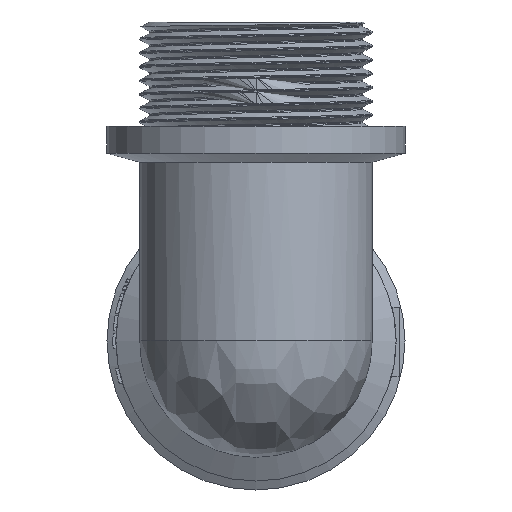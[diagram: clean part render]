
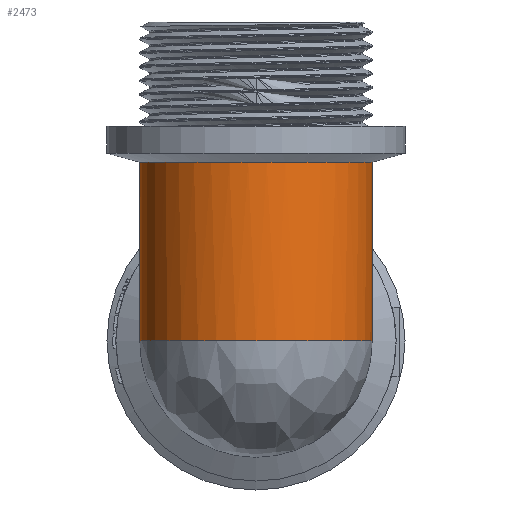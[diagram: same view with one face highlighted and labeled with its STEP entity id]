
A CAD part, front view. The second image highlights one B-rep face of the part: STEP entity #2473.
In plain terms, the highlighted cylindrical face has radius 19.5 mm (diameter 39 mm), a full revolution.
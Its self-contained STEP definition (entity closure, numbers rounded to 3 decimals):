
#44=B_SPLINE_CURVE_WITH_KNOTS('',3,(#3871,#3872,#3873,#3874,#3875,#3876,
#3877,#3878,#3879,#3880,#3881,#3882,#3883,#3884,#3885,#3886,#3887,#3888,
#3889,#3890,#3891,#3892,#3893,#3894,#3895,#3896,#3897,#3898,#3899,#3900,
#3901,#3902,#3903,#3904,#3905),.UNSPECIFIED.,.F.,.F.,(4,2,2,2,2,2,2,2,3,
2,2,2,2,2,2,2,4),(-2.938,-2.571,-2.204,
-1.836,-1.469,-1.102,-0.735,
-0.367,0.,0.367,0.735,1.102,
1.469,1.836,2.204,2.571,2.938),
 .UNSPECIFIED.);
#45=B_SPLINE_CURVE_WITH_KNOTS('',3,(#3906,#3907,#3908,#3909),
 .UNSPECIFIED.,.F.,.F.,(4,4),(-2.938,-2.938),
 .UNSPECIFIED.);
#237=ELLIPSE('',#2718,27.577,19.5);
#312=FACE_OUTER_BOUND('',#456,.T.);
#456=EDGE_LOOP('',(#1912,#1913,#1914,#1915,#1916,#1917,#1918,#1919));
#631=LINE('',#3922,#801);
#801=VECTOR('',#3192,19.5);
#940=CIRCLE('',#2699,19.5);
#951=CIRCLE('',#2717,19.5);
#952=CIRCLE('',#2719,19.5);
#1094=VERTEX_POINT('',#3849);
#1095=VERTEX_POINT('',#3850);
#1102=VERTEX_POINT('',#3870);
#1106=VERTEX_POINT('',#3921);
#1107=VERTEX_POINT('',#3923);
#1108=VERTEX_POINT('',#3925);
#1397=EDGE_CURVE('',#1094,#1095,#940,.T.);
#1407=EDGE_CURVE('',#1102,#1094,#44,.T.);
#1408=EDGE_CURVE('',#1095,#1102,#45,.T.);
#1414=EDGE_CURVE('',#1102,#1106,#631,.T.);
#1415=EDGE_CURVE('',#1106,#1107,#951,.T.);
#1416=EDGE_CURVE('',#1108,#1107,#237,.T.);
#1417=EDGE_CURVE('',#1108,#1106,#952,.T.);
#1912=ORIENTED_EDGE('',*,*,#1397,.T.);
#1913=ORIENTED_EDGE('',*,*,#1408,.T.);
#1914=ORIENTED_EDGE('',*,*,#1414,.T.);
#1915=ORIENTED_EDGE('',*,*,#1415,.T.);
#1916=ORIENTED_EDGE('',*,*,#1416,.F.);
#1917=ORIENTED_EDGE('',*,*,#1417,.T.);
#1918=ORIENTED_EDGE('',*,*,#1414,.F.);
#1919=ORIENTED_EDGE('',*,*,#1407,.T.);
#2380=CYLINDRICAL_SURFACE('',#2716,19.5);
#2473=ADVANCED_FACE('',(#312),#2380,.T.);
#2699=AXIS2_PLACEMENT_3D('',#3851,#3153,#3154);
#2716=AXIS2_PLACEMENT_3D('',#3920,#3190,#3191);
#2717=AXIS2_PLACEMENT_3D('',#3924,#3193,#3194);
#2718=AXIS2_PLACEMENT_3D('',#3926,#3195,#3196);
#2719=AXIS2_PLACEMENT_3D('',#3927,#3197,#3198);
#3153=DIRECTION('center_axis',(0.,0.,-1.));
#3154=DIRECTION('ref_axis',(-1.,0.,0.));
#3190=DIRECTION('center_axis',(0.,0.,1.));
#3191=DIRECTION('ref_axis',(-1.,0.,0.));
#3192=DIRECTION('',(0.,0.,-1.));
#3193=DIRECTION('center_axis',(0.,0.,1.));
#3194=DIRECTION('ref_axis',(-1.,0.,0.));
#3195=DIRECTION('center_axis',(0.,0.707,-0.707));
#3196=DIRECTION('ref_axis',(0.,-0.707,-0.707));
#3197=DIRECTION('center_axis',(0.,0.,1.));
#3198=DIRECTION('ref_axis',(-1.,0.,0.));
#3849=CARTESIAN_POINT('',(-19.5,-49.,30.001));
#3850=CARTESIAN_POINT('',(19.5,-49.,30.001));
#3851=CARTESIAN_POINT('Origin',(0.,-49.,30.001));
#3870=CARTESIAN_POINT('',(19.5,-49.,30.001));
#3871=CARTESIAN_POINT('Ctrl Pts',(19.5,-49.,30.001));
#3872=CARTESIAN_POINT('Ctrl Pts',(19.5,-50.224,30.001));
#3873=CARTESIAN_POINT('Ctrl Pts',(19.383,-51.49,30.001));
#3874=CARTESIAN_POINT('Ctrl Pts',(18.89,-54.008,30.001));
#3875=CARTESIAN_POINT('Ctrl Pts',(18.513,-55.26,30.001));
#3876=CARTESIAN_POINT('Ctrl Pts',(17.519,-57.663,30.001));
#3877=CARTESIAN_POINT('Ctrl Pts',(16.899,-58.814,30.001));
#3878=CARTESIAN_POINT('Ctrl Pts',(15.467,-60.944,30.001));
#3879=CARTESIAN_POINT('Ctrl Pts',(14.655,-61.922,30.001));
#3880=CARTESIAN_POINT('Ctrl Pts',(12.923,-63.654,30.001));
#3881=CARTESIAN_POINT('Ctrl Pts',(11.945,-64.466,30.001));
#3882=CARTESIAN_POINT('Ctrl Pts',(9.815,-65.898,30.001));
#3883=CARTESIAN_POINT('Ctrl Pts',(8.664,-66.518,30.001));
#3884=CARTESIAN_POINT('Ctrl Pts',(6.262,-67.513,30.001));
#3885=CARTESIAN_POINT('Ctrl Pts',(5.009,-67.889,30.001));
#3886=CARTESIAN_POINT('Ctrl Pts',(2.49,-68.383,30.001));
#3887=CARTESIAN_POINT('Ctrl Pts',(1.224,-68.5,30.001));
#3888=CARTESIAN_POINT('Ctrl Pts',(0.,-68.5,30.001));
#3889=CARTESIAN_POINT('Ctrl Pts',(-1.224,-68.5,30.001));
#3890=CARTESIAN_POINT('Ctrl Pts',(-2.49,-68.383,30.001));
#3891=CARTESIAN_POINT('Ctrl Pts',(-5.009,-67.889,30.001));
#3892=CARTESIAN_POINT('Ctrl Pts',(-6.262,-67.513,30.001));
#3893=CARTESIAN_POINT('Ctrl Pts',(-8.664,-66.518,30.001));
#3894=CARTESIAN_POINT('Ctrl Pts',(-9.815,-65.898,30.001));
#3895=CARTESIAN_POINT('Ctrl Pts',(-11.945,-64.466,30.001));
#3896=CARTESIAN_POINT('Ctrl Pts',(-12.923,-63.654,30.001));
#3897=CARTESIAN_POINT('Ctrl Pts',(-14.655,-61.922,30.001));
#3898=CARTESIAN_POINT('Ctrl Pts',(-15.467,-60.944,30.001));
#3899=CARTESIAN_POINT('Ctrl Pts',(-16.899,-58.814,30.001));
#3900=CARTESIAN_POINT('Ctrl Pts',(-17.519,-57.663,30.001));
#3901=CARTESIAN_POINT('Ctrl Pts',(-18.513,-55.26,30.001));
#3902=CARTESIAN_POINT('Ctrl Pts',(-18.89,-54.008,30.001));
#3903=CARTESIAN_POINT('Ctrl Pts',(-19.383,-51.49,30.001));
#3904=CARTESIAN_POINT('Ctrl Pts',(-19.5,-50.224,30.001));
#3905=CARTESIAN_POINT('Ctrl Pts',(-19.5,-49.,30.001));
#3906=CARTESIAN_POINT('Ctrl Pts',(19.5,-49.,30.001));
#3907=CARTESIAN_POINT('Ctrl Pts',(19.5,-49.,30.001));
#3908=CARTESIAN_POINT('Ctrl Pts',(19.5,-49.,30.001));
#3909=CARTESIAN_POINT('Ctrl Pts',(19.5,-49.,30.001));
#3920=CARTESIAN_POINT('Origin',(0.,-49.,0.001));
#3921=CARTESIAN_POINT('',(19.5,-49.,0.001));
#3922=CARTESIAN_POINT('',(19.5,-49.,0.001));
#3923=CARTESIAN_POINT('',(19.5,-48.999,0.001));
#3924=CARTESIAN_POINT('Origin',(0.,-49.,0.001));
#3925=CARTESIAN_POINT('',(-19.5,-48.999,0.001));
#3926=CARTESIAN_POINT('Origin',(0.,-49.,0.));
#3927=CARTESIAN_POINT('Origin',(0.,-49.,0.001));
